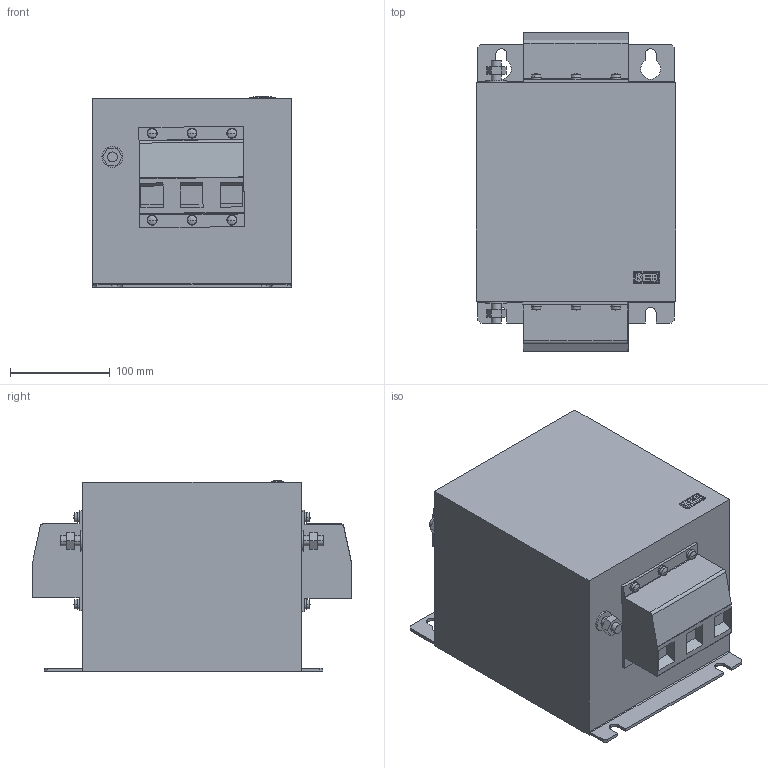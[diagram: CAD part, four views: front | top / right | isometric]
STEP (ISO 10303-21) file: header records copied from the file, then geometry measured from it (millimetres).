
FILE_DESCRIPTION (( 'STEP AP214' ), '1' );
FILE_NAME ('00E6X01-0022.STEP', '2023-07-10T14:45:42', ( '' ), ( '' ), 'SwSTEP 2.0', 'SolidWorks 2022', '' );
FILE_SCHEMA (( 'AUTOMOTIVE_DESIGN' ));
Length unit declared in the file: millimetre
Products named in the file (1): 00E6X01-0022
Bounding box: 200 x 320 x 191.52 mm (x, y, z)
Volume: 9137503.7 mm3; surface area: 312371.1 mm2
Topology: 1 solids, 1 shells, 274 faces, 709 edges, 470 vertices
Faces by surface type: plane 138, cylinder 75, sphere 24, cone 24, bspline 13
Entity records: 9308 total; most frequent: CARTESIAN_POINT 2365, ORIENTED_EDGE 1418, DIRECTION 1331, EDGE_CURVE 709, VERTEX_POINT 470, AXIS2_PLACEMENT_3D 456, VECTOR 419, LINE 419
